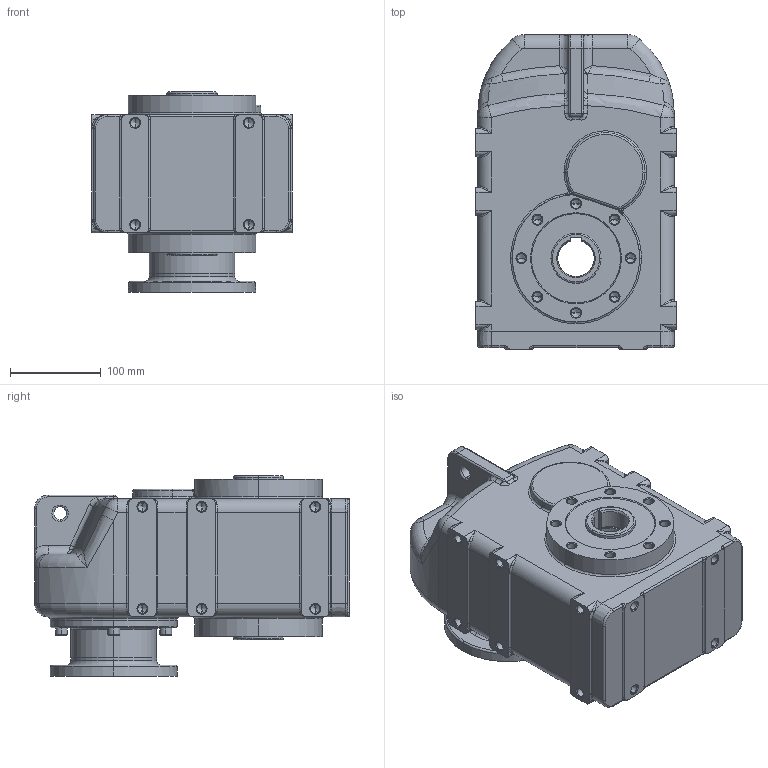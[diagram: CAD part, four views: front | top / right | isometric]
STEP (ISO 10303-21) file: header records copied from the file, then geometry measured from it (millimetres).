
FILE_DESCRIPTION (( 'STEP AP214' ), '1' );
FILE_NAME ('tnc32-f115-ap90.STEP', '2009-09-23T06:46:50', ( '' ), ( '' ), 'SwSTEP 2.0', 'SolidWorks 2003240', '' );
FILE_SCHEMA (( 'AUTOMOTIVE_DESIGN' ));
Length unit declared in the file: millimetre
Products named in the file (4): Skøíò TNC3_Skøíò TNC32 AP90; Priruba d80 MTC52A_95-115-140; tnc32-f115-ap90; N021143_Šroub s vnitøním šestihranem DIN 912 - M6 x 20
Assembly tree (8 placements, depth 2):
  tnc32-f115-ap90
    N021143_Šroub s vnitøním šestihranem DIN 912 - M6 x 20  x6
    Priruba d80 MTC52A_95-115-140
    Skøíò TNC3_Skøíò TNC32 AP90
Bounding box: 220 x 346 x 220 mm (x, y, z)
Volume: 9761773.2 mm3; surface area: 414982.5 mm2
Topology: 8 solids, 8 shells, 862 faces, 1954 edges, 1069 vertices
Faces by surface type: cylinder 281, cone 233, plane 166, torus 118, bspline 60, sphere 4
Entity records: 82552 total; most frequent: CARTESIAN_POINT 65457, DIRECTION 3639, ORIENTED_EDGE 3196, EDGE_CURVE 1598, AXIS2_PLACEMENT_3D 1496, VERTEX_POINT 939, EDGE_LOOP 825, CIRCLE 813
